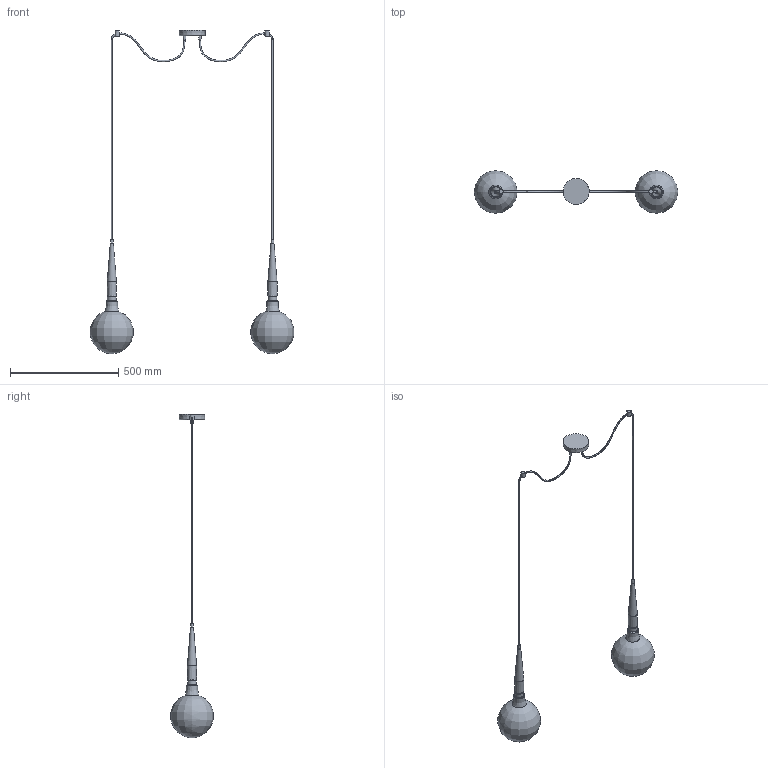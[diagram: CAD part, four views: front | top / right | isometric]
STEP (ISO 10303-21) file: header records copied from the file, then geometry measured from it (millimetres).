
FILE_DESCRIPTION(/* description */ (''),/* implementation_level */ '2;1');
FILE_NAME(/* name */ '1601_doppia',/* time_stamp */ '2021-03-15T11:41:32+01:00',/* author */ (''),/* organization */ (''),/* preprocessor_version */ 'ST-DEVELOPER v16.5',/* originating_system */ '',/* authorisation */ '');
FILE_SCHEMA (('CONFIG_CONTROL_DESIGN'));
Length unit declared in the file: millimetre
Products named in the file (1): Document
Bounding box: 940.19 x 197.33 x 1492.56 mm (x, y, z)
Volume: 9422991.2 mm3; surface area: 417106.2 mm2
Topology: 13 solids, 21 shells, 52 faces, 87 edges, 56 vertices
Faces by surface type: bspline 25, plane 21, cylinder 6
Full cylindrical faces by diameter (mm): 6 x4, 40 x2
Entity records: 4237 total; most frequent: CARTESIAN_POINT 3512, ORIENTED_EDGE 170, EDGE_CURVE 91, VERTEX_POINT 69, ADVANCED_FACE 52, FACE_OUTER_BOUND 52, EDGE_LOOP 52, DIRECTION 33
